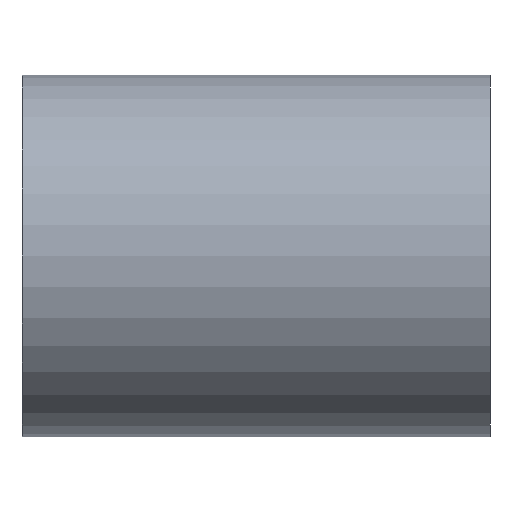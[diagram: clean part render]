
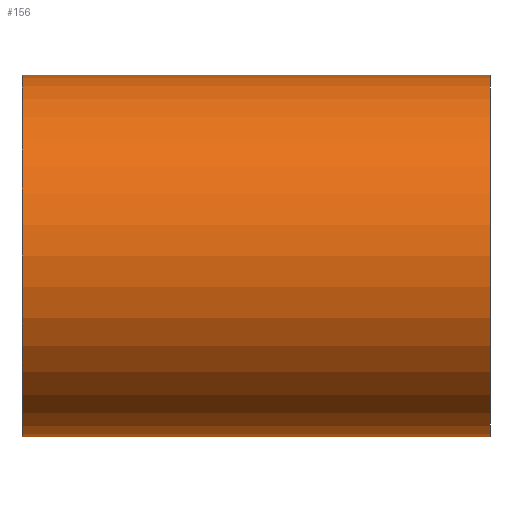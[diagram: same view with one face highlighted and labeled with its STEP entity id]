
A CAD part, front view. The second image highlights one B-rep face of the part: STEP entity #156.
In plain terms, the highlighted cylindrical face has radius 725 mm (diameter 1450 mm), a partial arc.
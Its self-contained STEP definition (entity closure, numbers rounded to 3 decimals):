
#156=ADVANCED_FACE('',(#308),#309,.T.);
#308=FACE_OUTER_BOUND('',#495,.T.);
#309=CYLINDRICAL_SURFACE('',#496,725.0);
#495=EDGE_LOOP('',(#891,#892,#893,#894));
#496=AXIS2_PLACEMENT_3D('',#895,#896,#897);
#891=ORIENTED_EDGE('',*,*,#995,.T.);
#892=ORIENTED_EDGE('',*,*,#1168,.F.);
#893=ORIENTED_EDGE('',*,*,#997,.T.);
#894=ORIENTED_EDGE('',*,*,#1169,.F.);
#895=CARTESIAN_POINT('',(0.0,0.0,0.0));
#896=DIRECTION('',(1.0,0.0,0.0));
#897=DIRECTION('',(0.0,0.0,-1.0));
#995=EDGE_CURVE('',#1173,#1174,#1175,.T.);
#997=EDGE_CURVE('',#1178,#1176,#1179,.T.);
#1168=EDGE_CURVE('',#1178,#1174,#1434,.T.);
#1169=EDGE_CURVE('',#1173,#1176,#1435,.T.);
#1173=VERTEX_POINT('',#1439);
#1174=VERTEX_POINT('',#1440);
#1175=LINE('',#1441,#1442);
#1176=VERTEX_POINT('',#1443);
#1178=VERTEX_POINT('',#1445);
#1179=LINE('',#1446,#1447);
#1434=CIRCLE('',#1744,725.0);
#1435=CIRCLE('',#1745,725.0);
#1439=CARTESIAN_POINT('',(-937.5,0.0,-725.0));
#1440=CARTESIAN_POINT('',(937.5,0.0,-725.0));
#1441=CARTESIAN_POINT('',(0.0,0.,-725.0));
#1442=VECTOR('',#1748,1.0);
#1443=CARTESIAN_POINT('',(-937.5,0.,725.0));
#1445=CARTESIAN_POINT('',(937.5,0.,725.0));
#1446=CARTESIAN_POINT('',(0.0,0.,725.0));
#1447=VECTOR('',#1752,1.0);
#1744=AXIS2_PLACEMENT_3D('',#2050,#2051,#2052);
#1745=AXIS2_PLACEMENT_3D('',#2053,#2054,#2055);
#1748=DIRECTION('',(1.0,0.0,0.0));
#1752=DIRECTION('',(-1.0,-0.0,-0.0));
#2050=CARTESIAN_POINT('',(937.5,0.0,0.0));
#2051=DIRECTION('',(1.0,0.0,0.0));
#2052=DIRECTION('',(0.0,0.0,-1.0));
#2053=CARTESIAN_POINT('',(-937.5,0.0,0.0));
#2054=DIRECTION('',(-1.0,0.0,0.0));
#2055=DIRECTION('',(0.0,0.0,-1.0));
